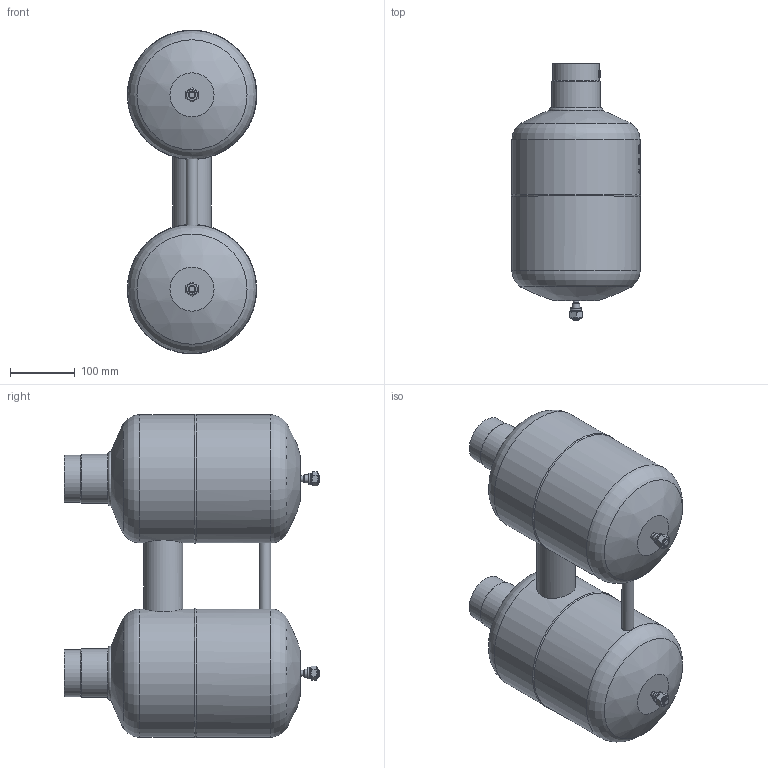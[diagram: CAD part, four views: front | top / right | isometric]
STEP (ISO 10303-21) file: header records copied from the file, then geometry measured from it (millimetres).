
FILE_DESCRIPTION(/* description */ (''),/* implementation_level */ '2;1');
FILE_NAME(/* name */ 'P:\FA\FA-67T\FA-67T.stp',/* time_stamp */ '2017-10-05T08:02:23+02:00',/* author */ ('neufeld'),/* organization */ (''),/* preprocessor_version */ 'ST-DEVELOPER v16.1',/* originating_system */ 'Autodesk Inventor 2016',/* authorisation */ '');
FILE_SCHEMA (('AUTOMOTIVE_DESIGN { 1 0 10303 214 3 1 1 }'));
Length unit declared in the file: millimetre
Products named in the file (2): FA-67T; FA-67T_1
Assembly tree (1 placements, depth 2):
  FA-67T_1
    FA-67T
Bounding box: 200.05 x 395.1 x 500.01 mm (x, y, z)
Volume: 17117687.2 mm3; surface area: 495488.9 mm2
Topology: 3 solids, 3 shells, 1277 faces, 3443 edges, 2292 vertices
Faces by surface type: plane 693, bspline 429, cylinder 132, cone 11, torus 8, sphere 4
Full cylindrical faces by diameter (mm): 9 x2, 12 x4, 18 x1, 18.3 x2, 60 x1, 60.7 x1, 67.3 x2, 72.5 x2, 75.4 x2, 198 x4
Entity records: 49434 total; most frequent: CARTESIAN_POINT 19695, ORIENTED_EDGE 6788, DIRECTION 5088, EDGE_CURVE 3394, VERTEX_POINT 2280, AXIS2_PLACEMENT_3D 1741, LINE 1606, VECTOR 1606
